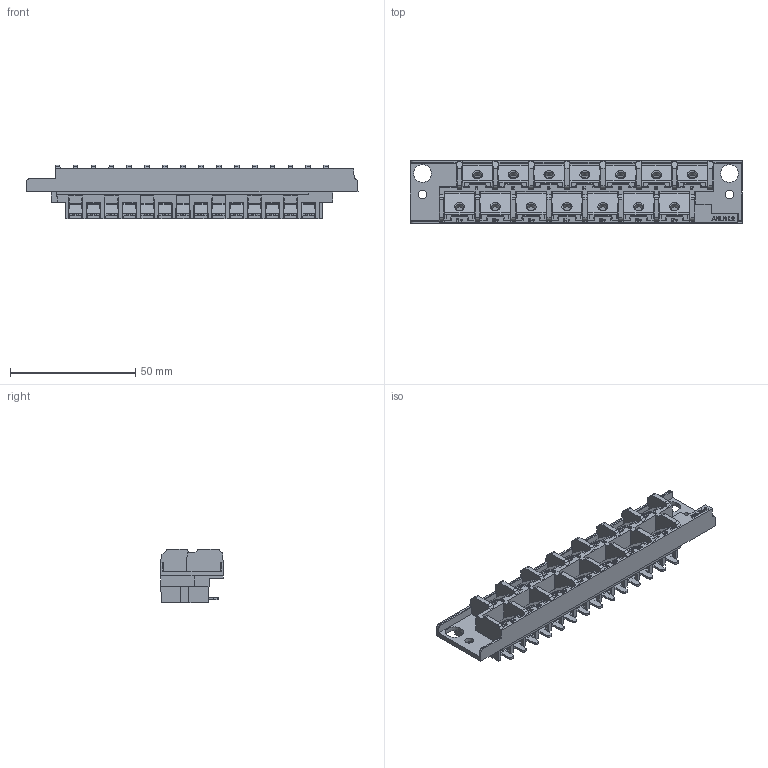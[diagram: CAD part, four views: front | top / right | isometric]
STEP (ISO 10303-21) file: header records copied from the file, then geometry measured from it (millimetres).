
FILE_DESCRIPTION(/* description */ (''),/* implementation_level */ '2;1');
FILE_NAME(/* name */ 'C:\Users\jondi\Desktop\FLEX 3D STP\L2.stp',/* time_stamp */ '2021-03-10T12:40:23-06:00',/* author */ ('jondi'),/* organization */ (''),/* preprocessor_version */ 'ST-DEVELOPER v17.2',/* originating_system */ 'Autodesk Inventor 2019',/* authorisation */ '');
FILE_SCHEMA (('AUTOMOTIVE_DESIGN { 1 0 10303 214 3 1 1 }'));
Length unit declared in the file: inch
Products named in the file (7): L2; 9579230120; 9579230001; CT Connector Housing - Dual Row; Basler CT Metal; Basler CT Metal4; 9579230011
Assembly tree (18 placements, depth 4):
  L2
    9579230120
      9579230001
        CT Connector Housing - Dual Row
      Basler CT Metal  x7
      Basler CT Metal4  x7
    9579230011
Bounding box: 132.55 x 24.98 x 21.46 mm (x, y, z)
Volume: 20012.7 mm3; surface area: 32498.4 mm2
Topology: 57 solids, 57 shells, 1928 faces, 5165 edges, 3331 vertices
Faces by surface type: plane 1470, cylinder 269, bspline 129, cone 32, torus 28
Full cylindrical faces by diameter (mm): 0.762 x7, 3.302 x14, 4.369 x14
Entity records: 40107 total; most frequent: CARTESIAN_POINT 8603, ORIENTED_EDGE 6826, DIRECTION 5802, EDGE_CURVE 3413, LINE 2826, VECTOR 2826, VERTEX_POINT 2215, AXIS2_PLACEMENT_3D 1488
